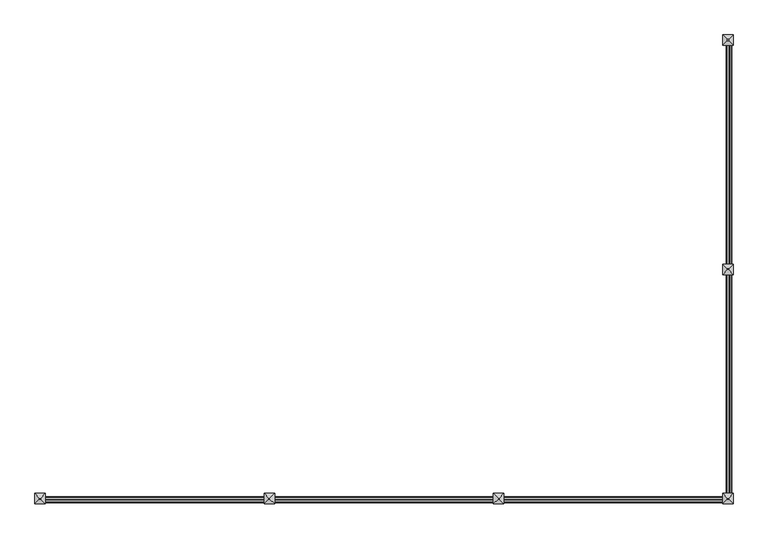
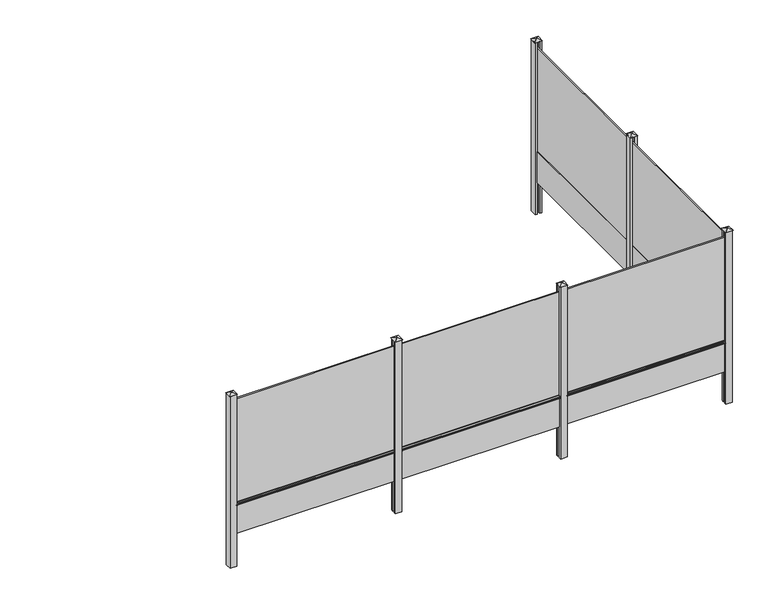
"""IFC4 building model written with IfcOpenShell, lengths in millimetres: railing geometry, Mehat - Railing - Plaque de Soubassement - Classique pour clôture rigide - 245x50x3.8 cm."""

from ifc_helpers import new_model, si_unit, point, frame, frame_2d, origin, origin_with_axes, place, context, project, spatial, polyline, circle_curve, trimmed, segment, composite_curve, outline, extrude, faceted_brep, source, transform, mapped, element, save


def railing_e329078b(model_context):
    return source(origin(), model_context, "Body", "SolidModel", [
        extrude(outline(polyline([(245896.2516516, -10877.4943936), (245879.2516516, -10877.4943936), (245879.2516516, -8427.4943936), (245896.2516516, -8427.4943936), (245896.2516516, -10877.4943936)])), frame((0.0, 0.0, 500.0), z_axis=(0.0, 0.0, 1.0), x_axis=(1.0, 0.0, 0.0)), (0.0, 0.0, 1.0), 1650.0),
        extrude(outline(polyline([(245906.7516516, -10877.4943936), (245868.7516516, -10877.4943936), (245868.7516516, -8427.4943936), (245906.7516516, -8427.4943936), (245906.7516516, -10877.4943936)])), origin_with_axes(), (0.0, 0.0, 1.0), 500.0),
        extrude(outline(composite_curve([segment(polyline([(460.0, 245906.7516516), (467.1937129, 245928.3327905)]), True, "CONTINUOUS"), segment(trimmed(circle_curve(frame_2d((471.9371294, 245926.7516516)), 5.0), [point((467.1937129, 245928.3327905))], [point((471.9371294, 245931.7516516))], False, "CARTESIAN"), True, "CONTINUOUS"), segment(polyline([(471.9371294, 245931.7516516), (488.0628706, 245931.7516516)]), True, "CONTINUOUS"), segment(trimmed(circle_curve(frame_2d((488.0628706, 245926.7516516)), 5.0), [point((488.0628706, 245931.7516516))], [point((492.8062871, 245928.3327905))], False, "CARTESIAN"), True, "CONTINUOUS"), segment(polyline([(492.8062871, 245928.3327905), (500.0, 245906.7516516), (460.0, 245906.7516516)]), True, "CONTINUOUS")], self_intersect=False)), frame((0.0, -10852.4943936, 0.0), z_axis=(0.0, 1.0, 0.0), x_axis=(0.0, 0.0, 1.0)), (0.0, 0.0, 1.0), 2400.0),
        extrude(outline(polyline([(245937.7516516, -10952.4943936), (245906.7516516, -10952.4943936), (245906.7516516, -10927.4943936), (245868.7516516, -10927.4943936), (245868.7516516, -10952.4943936), (245837.7516516, -10952.4943936), (245837.7516516, -10852.4943936), (245868.7516516, -10852.4943936), (245868.7516516, -10877.4943936), (245906.7516516, -10877.4943936), (245906.7516516, -10852.4943936), (245937.7516516, -10852.4943936), (245937.7516516, -10952.4943936)])), frame((0.0, 0.0, -500.0), z_axis=(0.0, 0.0, 1.0), x_axis=(1.0, 0.0, 0.0)), (0.0, 0.0, 1.0), 2750.0),
        faceted_brep([(245881.3471055, -10896.1443936, 2275.4), (245881.3471055, -10908.8443936, 2275.4), (245894.0471055, -10908.8443936, 2275.4), (245894.0471055, -10896.1443936, 2275.4), (245831.4016516, -10846.1443936, 2250.0), (245944.1016516, -10846.1443936, 2250.0), (245944.1016516, -10958.8443936, 2250.0), (245831.4016516, -10958.8443936, 2250.0)], [[[0, 1, 2, 3]], [[4, 5, 6, 7]], [[4, 0, 3, 5]], [[5, 3, 2, 6]], [[6, 2, 1, 7]], [[7, 1, 0, 4]]]),
        extrude(outline(polyline([(245896.2516516, -13377.4943936), (245879.2516516, -13377.4943936), (245879.2516516, -10927.4943936), (245896.2516516, -10927.4943936), (245896.2516516, -13377.4943936)])), frame((0.0, 0.0, 500.0), z_axis=(0.0, 0.0, 1.0), x_axis=(1.0, 0.0, 0.0)), (0.0, 0.0, 1.0), 1650.0),
        extrude(outline(polyline([(245906.7516516, -13377.4943936), (245868.7516516, -13377.4943936), (245868.7516516, -10927.4943936), (245906.7516516, -10927.4943936), (245906.7516516, -13377.4943936)])), origin_with_axes(), (0.0, 0.0, 1.0), 500.0),
        extrude(outline(composite_curve([segment(polyline([(460.0, 245906.7516516), (467.1937129, 245928.3327905)]), True, "CONTINUOUS"), segment(trimmed(circle_curve(frame_2d((471.9371294, 245926.7516516)), 5.0), [point((467.1937129, 245928.3327905))], [point((471.9371294, 245931.7516516))], False, "CARTESIAN"), True, "CONTINUOUS"), segment(polyline([(471.9371294, 245931.7516516), (488.0628706, 245931.7516516)]), True, "CONTINUOUS"), segment(trimmed(circle_curve(frame_2d((488.0628706, 245926.7516516)), 5.0), [point((488.0628706, 245931.7516516))], [point((492.8062871, 245928.3327905))], False, "CARTESIAN"), True, "CONTINUOUS"), segment(polyline([(492.8062871, 245928.3327905), (500.0, 245906.7516516), (460.0, 245906.7516516)]), True, "CONTINUOUS")], self_intersect=False)), frame((0.0, -13352.4943936, 0.0), z_axis=(0.0, 1.0, 0.0), x_axis=(0.0, 0.0, 1.0)), (0.0, 0.0, 1.0), 2400.0),
        extrude(outline(polyline([(243412.7516516, -13410.9943936), (243412.7516516, -13393.9943936), (245862.7516516, -13393.9943936), (245862.7516516, -13410.9943936), (243412.7516516, -13410.9943936)])), frame((0.0, 0.0, 500.0), z_axis=(0.0, 0.0, 1.0), x_axis=(1.0, 0.0, 0.0)), (0.0, 0.0, 1.0), 1650.0),
        extrude(outline(polyline([(243412.7516516, -13421.4943936), (243412.7516516, -13383.4943936), (245862.7516516, -13383.4943936), (245862.7516516, -13421.4943936), (243412.7516516, -13421.4943936)])), origin_with_axes(), (0.0, 0.0, 1.0), 500.0),
        extrude(outline(composite_curve([segment(polyline([(-13421.4943936, 460.0), (-13443.0755325, 467.1937129)]), True, "CONTINUOUS"), segment(trimmed(circle_curve(frame_2d((-13441.4943936, 471.9371294)), 5.0), [point((-13443.0755325, 467.1937129))], [point((-13446.4943936, 471.9371294))], False, "CARTESIAN"), True, "CONTINUOUS"), segment(polyline([(-13446.4943936, 471.9371294), (-13446.4943936, 488.0628706)]), True, "CONTINUOUS"), segment(trimmed(circle_curve(frame_2d((-13441.4943936, 488.0628706)), 5.0), [point((-13446.4943936, 488.0628706))], [point((-13443.0755325, 492.8062871))], False, "CARTESIAN"), True, "CONTINUOUS"), segment(polyline([(-13443.0755325, 492.8062871), (-13421.4943936, 500.0), (-13421.4943936, 460.0)]), True, "CONTINUOUS")], self_intersect=False)), frame((243437.7516516, 0.0, 0.0), z_axis=(1.0, 0.0, 0.0), x_axis=(0.0, 1.0, 0.0)), (0.0, 0.0, 1.0), 2400.0),
        extrude(outline(polyline([(243337.7516516, -13452.4943936), (243337.7516516, -13421.4943936), (243362.7516516, -13421.4943936), (243362.7516516, -13383.4943936), (243337.7516516, -13383.4943936), (243337.7516516, -13352.4943936), (243437.7516516, -13352.4943936), (243437.7516516, -13383.4943936), (243412.7516516, -13383.4943936), (243412.7516516, -13421.4943936), (243437.7516516, -13421.4943936), (243437.7516516, -13452.4943936), (243337.7516516, -13452.4943936)])), frame((0.0, 0.0, -500.0), z_axis=(0.0, 0.0, 1.0), x_axis=(1.0, 0.0, 0.0)), (0.0, 0.0, 1.0), 2750.0),
        faceted_brep([(243394.1016516, -13396.0898475, 2275.4), (243381.4016516, -13396.0898475, 2275.4), (243381.4016516, -13408.7898475, 2275.4), (243394.1016516, -13408.7898475, 2275.4), (243444.1016516, -13346.1443936, 2250.0), (243444.1016516, -13458.8443936, 2250.0), (243331.4016516, -13458.8443936, 2250.0), (243331.4016516, -13346.1443936, 2250.0)], [[[0, 1, 2, 3]], [[4, 5, 6, 7]], [[4, 0, 3, 5]], [[5, 3, 2, 6]], [[6, 2, 1, 7]], [[7, 1, 0, 4]]]),
        extrude(outline(polyline([(240912.7516516, -13410.9943936), (240912.7516516, -13393.9943936), (243362.7516516, -13393.9943936), (243362.7516516, -13410.9943936), (240912.7516516, -13410.9943936)])), frame((0.0, 0.0, 500.0), z_axis=(0.0, 0.0, 1.0), x_axis=(1.0, 0.0, 0.0)), (0.0, 0.0, 1.0), 1650.0),
        extrude(outline(polyline([(240912.7516516, -13421.4943936), (240912.7516516, -13383.4943936), (243362.7516516, -13383.4943936), (243362.7516516, -13421.4943936), (240912.7516516, -13421.4943936)])), origin_with_axes(), (0.0, 0.0, 1.0), 500.0),
        extrude(outline(composite_curve([segment(polyline([(-13421.4943936, 460.0), (-13443.0755325, 467.1937129)]), True, "CONTINUOUS"), segment(trimmed(circle_curve(frame_2d((-13441.4943936, 471.9371294)), 5.0), [point((-13443.0755325, 467.1937129))], [point((-13446.4943936, 471.9371294))], False, "CARTESIAN"), True, "CONTINUOUS"), segment(polyline([(-13446.4943936, 471.9371294), (-13446.4943936, 488.0628706)]), True, "CONTINUOUS"), segment(trimmed(circle_curve(frame_2d((-13441.4943936, 488.0628706)), 5.0), [point((-13446.4943936, 488.0628706))], [point((-13443.0755325, 492.8062871))], False, "CARTESIAN"), True, "CONTINUOUS"), segment(polyline([(-13443.0755325, 492.8062871), (-13421.4943936, 500.0), (-13421.4943936, 460.0)]), True, "CONTINUOUS")], self_intersect=False)), frame((240937.7516516, 0.0, 0.0), z_axis=(1.0, 0.0, 0.0), x_axis=(0.0, 1.0, 0.0)), (0.0, 0.0, 1.0), 2400.0),
        extrude(outline(polyline([(240837.7516516, -13452.4943936), (240837.7516516, -13421.4943936), (240862.7516516, -13421.4943936), (240862.7516516, -13383.4943936), (240837.7516516, -13383.4943936), (240837.7516516, -13352.4943936), (240937.7516516, -13352.4943936), (240937.7516516, -13383.4943936), (240912.7516516, -13383.4943936), (240912.7516516, -13421.4943936), (240937.7516516, -13421.4943936), (240937.7516516, -13452.4943936), (240837.7516516, -13452.4943936)])), frame((0.0, 0.0, -500.0), z_axis=(0.0, 0.0, 1.0), x_axis=(1.0, 0.0, 0.0)), (0.0, 0.0, 1.0), 2750.0),
        faceted_brep([(240894.1016516, -13396.0898475, 2275.4), (240881.4016516, -13396.0898475, 2275.4), (240881.4016516, -13408.7898475, 2275.4), (240894.1016516, -13408.7898475, 2275.4), (240944.1016516, -13346.1443936, 2250.0), (240944.1016516, -13458.8443936, 2250.0), (240831.4016516, -13458.8443936, 2250.0), (240831.4016516, -13346.1443936, 2250.0)], [[[0, 1, 2, 3]], [[4, 5, 6, 7]], [[4, 0, 3, 5]], [[5, 3, 2, 6]], [[6, 2, 1, 7]], [[7, 1, 0, 4]]]),
        extrude(outline(polyline([(238412.7516516, -13410.9943936), (238412.7516516, -13393.9943936), (240862.7516516, -13393.9943936), (240862.7516516, -13410.9943936), (238412.7516516, -13410.9943936)])), frame((0.0, 0.0, 500.0), z_axis=(0.0, 0.0, 1.0), x_axis=(1.0, 0.0, 0.0)), (0.0, 0.0, 1.0), 1650.0),
        extrude(outline(polyline([(238412.7516516, -13421.4943936), (238412.7516516, -13383.4943936), (240862.7516516, -13383.4943936), (240862.7516516, -13421.4943936), (238412.7516516, -13421.4943936)])), origin_with_axes(), (0.0, 0.0, 1.0), 500.0),
        extrude(outline(composite_curve([segment(polyline([(-13421.4943936, 460.0), (-13443.0755325, 467.1937129)]), True, "CONTINUOUS"), segment(trimmed(circle_curve(frame_2d((-13441.4943936, 471.9371294)), 5.0), [point((-13443.0755325, 467.1937129))], [point((-13446.4943936, 471.9371294))], False, "CARTESIAN"), True, "CONTINUOUS"), segment(polyline([(-13446.4943936, 471.9371294), (-13446.4943936, 488.0628706)]), True, "CONTINUOUS"), segment(trimmed(circle_curve(frame_2d((-13441.4943936, 488.0628706)), 5.0), [point((-13446.4943936, 488.0628706))], [point((-13443.0755325, 492.8062871))], False, "CARTESIAN"), True, "CONTINUOUS"), segment(polyline([(-13443.0755325, 492.8062871), (-13421.4943936, 500.0), (-13421.4943936, 460.0)]), True, "CONTINUOUS")], self_intersect=False)), frame((238437.7516516, 0.0, 0.0), z_axis=(1.0, 0.0, 0.0), x_axis=(0.0, 1.0, 0.0)), (0.0, 0.0, 1.0), 2400.0),
        extrude(outline(polyline([(245837.7516516, -13452.4943936), (245837.7516516, -13421.4943936), (245862.7516516, -13421.4943936), (245862.7516516, -13383.4943936), (245837.7516516, -13383.4943936), (245837.7516516, -13352.4943936), (245868.7516516, -13352.4943936), (245868.7516516, -13377.4943936), (245906.7516516, -13377.4943936), (245906.7516516, -13352.4943936), (245937.7516516, -13352.4943936), (245937.7516516, -13452.4943936), (245837.7516516, -13452.4943936)])), frame((0.0, 0.0, -500.0), z_axis=(0.0, 0.0, 1.0), x_axis=(1.0, 0.0, 0.0)), (0.0, 0.0, 1.0), 2750.0),
        faceted_brep([(245894.1016516, -13396.0898475, 2275.4), (245881.4016516, -13396.0898475, 2275.4), (245881.4016516, -13408.7898475, 2275.4), (245894.1016516, -13408.7898475, 2275.4), (245944.1016516, -13346.1443936, 2250.0), (245944.1016516, -13458.8443936, 2250.0), (245831.4016516, -13458.8443936, 2250.0), (245831.4016516, -13346.1443936, 2250.0)], [[[0, 1, 2, 3]], [[4, 5, 6, 7]], [[4, 0, 3, 5]], [[5, 3, 2, 6]], [[6, 2, 1, 7]], [[7, 1, 0, 4]]]),
        extrude(outline(polyline([(245937.7516516, -8452.4943936), (245906.7516516, -8452.4943936), (245906.7516516, -8427.4943936), (245868.7516516, -8427.4943936), (245868.7516516, -8452.4943936), (245837.7516516, -8452.4943936), (245837.7516516, -8352.4943936), (245937.7516516, -8352.4943936), (245937.7516516, -8452.4943936)])), frame((0.0, 0.0, -500.0), z_axis=(0.0, 0.0, 1.0), x_axis=(1.0, 0.0, 0.0)), (0.0, 0.0, 1.0), 2750.0),
        faceted_brep([(245881.3471055, -8396.1443936, 2275.4), (245881.3471055, -8408.8443936, 2275.4), (245894.0471055, -8408.8443936, 2275.4), (245894.0471055, -8396.1443936, 2275.4), (245831.4016516, -8346.1443936, 2250.0), (245944.1016516, -8346.1443936, 2250.0), (245944.1016516, -8458.8443936, 2250.0), (245831.4016516, -8458.8443936, 2250.0)], [[[0, 1, 2, 3]], [[4, 5, 6, 7]], [[4, 0, 3, 5]], [[5, 3, 2, 6]], [[6, 2, 1, 7]], [[7, 1, 0, 4]]]),
        extrude(outline(polyline([(238337.7516516, -13452.4943936), (238337.7516516, -13352.4943936), (238437.7516516, -13352.4943936), (238437.7516516, -13383.4943936), (238412.7516516, -13383.4943936), (238412.7516516, -13421.4943936), (238437.7516516, -13421.4943936), (238437.7516516, -13452.4943936), (238337.7516516, -13452.4943936)])), frame((0.0, 0.0, -500.0), z_axis=(0.0, 0.0, 1.0), x_axis=(1.0, 0.0, 0.0)), (0.0, 0.0, 1.0), 2750.0),
        faceted_brep([(238394.1016516, -13396.0898475, 2275.4), (238381.4016516, -13396.0898475, 2275.4), (238381.4016516, -13408.7898475, 2275.4), (238394.1016516, -13408.7898475, 2275.4), (238444.1016516, -13346.1443936, 2250.0), (238444.1016516, -13458.8443936, 2250.0), (238331.4016516, -13458.8443936, 2250.0), (238331.4016516, -13346.1443936, 2250.0)], [[[0, 1, 2, 3]], [[4, 5, 6, 7]], [[4, 0, 3, 5]], [[5, 3, 2, 6]], [[6, 2, 1, 7]], [[7, 1, 0, 4]]]),
    ])


if __name__ == "__main__":
    model = new_model("IFC4")
    model_context = context("Model", 3, world=origin())
    ifc_project = project(units=[si_unit("LENGTHUNIT", "METRE", prefix="MILLI")], contexts=[model_context])
    site = spatial("IfcSite", under=ifc_project)
    building = spatial("IfcBuilding", under=site)
    placement = place(None, origin())
    railing_shape = railing_e329078b(model_context)
    element("IfcRailing", 1, ObjectType="Mehat - Railing - Plaque de Soubassement - Classique pour clôture rigide - 245x50x3.8 cm", at=placement, inside=building, context=model_context, shape_type="MappedRepresentation", body=[
        mapped(railing_shape, transform((0.0, 0.0, 0.0), x_axis=(1.0, 0.0, 0.0), y_axis=(0.0, 1.0, 0.0), z_axis=(0.0, 0.0, 1.0))),
    ])
    save(model, "model.ifc")
